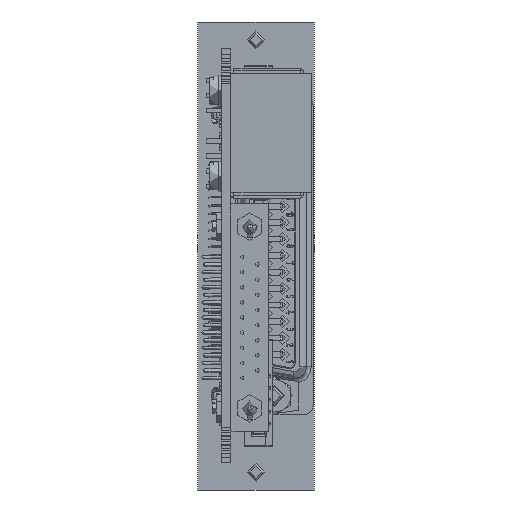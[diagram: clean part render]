
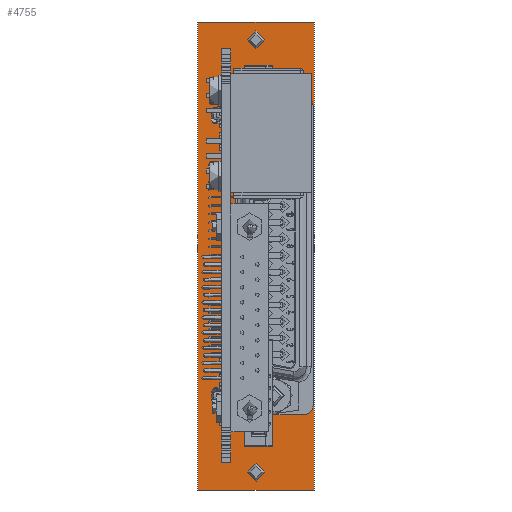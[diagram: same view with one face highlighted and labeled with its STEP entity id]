
A CAD part, front view. The second image highlights one B-rep face of the part: STEP entity #4755.
In plain terms, the highlighted planar face has unit normal (0, -1, 0).
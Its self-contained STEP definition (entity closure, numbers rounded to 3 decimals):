
#4755=ADVANCED_FACE('',(#49452,#49454,#49456,#49458),#49460,.F.);
#49452=FACE_BOUND('',#49453,.T.);
#49453=EDGE_LOOP('',(#87372,#87373,#87374,#87375));
#49454=FACE_BOUND('',#49455,.T.);
#49455=EDGE_LOOP('',(#87376,#87377,#87378,#87379,#87380,#87381,#87382,#87383));
#49456=FACE_BOUND('',#49457,.T.);
#49457=EDGE_LOOP('',(#87384));
#49458=FACE_BOUND('',#49459,.T.);
#49459=EDGE_LOOP('',(#87385));
#49460=PLANE('',#49461);
#49461=AXIS2_PLACEMENT_3D('',#49462,#49463,#49464);
#49462=CARTESIAN_POINT('',(0.,0.,0.));
#49463=DIRECTION('',(0.,1.,0.));
#49464=DIRECTION('',(-1.,0.,0.));
#87372=ORIENTED_EDGE('',*,*,#112655,.F.);
#87373=ORIENTED_EDGE('',*,*,#112663,.F.);
#87374=ORIENTED_EDGE('',*,*,#112660,.F.);
#87375=ORIENTED_EDGE('',*,*,#112658,.F.);
#87376=ORIENTED_EDGE('',*,*,#113678,.F.);
#87377=ORIENTED_EDGE('',*,*,#113679,.F.);
#87378=ORIENTED_EDGE('',*,*,#113680,.F.);
#87379=ORIENTED_EDGE('',*,*,#113681,.F.);
#87380=ORIENTED_EDGE('',*,*,#113682,.F.);
#87381=ORIENTED_EDGE('',*,*,#113683,.F.);
#87382=ORIENTED_EDGE('',*,*,#113684,.F.);
#87383=ORIENTED_EDGE('',*,*,#113685,.F.);
#87384=ORIENTED_EDGE('',*,*,#113686,.T.);
#87385=ORIENTED_EDGE('',*,*,#113687,.T.);
#112655=EDGE_CURVE('',#126127,#126128,#126129,.T.);
#112658=EDGE_CURVE('',#126128,#126132,#126133,.T.);
#112660=EDGE_CURVE('',#126132,#126135,#126136,.T.);
#112663=EDGE_CURVE('',#126135,#126127,#126140,.T.);
#113678=EDGE_CURVE('',#127704,#127705,#127706,.F.);
#113679=EDGE_CURVE('',#127707,#127704,#127708,.T.);
#113680=EDGE_CURVE('',#127709,#127707,#127710,.T.);
#113681=EDGE_CURVE('',#127711,#127709,#127712,.T.);
#113682=EDGE_CURVE('',#127713,#127711,#127714,.F.);
#113683=EDGE_CURVE('',#127715,#127713,#127716,.T.);
#113684=EDGE_CURVE('',#127717,#127715,#127718,.T.);
#113685=EDGE_CURVE('',#127705,#127717,#127719,.T.);
#113686=EDGE_CURVE('',#127720,#127720,#127721,.F.);
#113687=EDGE_CURVE('',#127722,#127722,#127723,.F.);
#126127=VERTEX_POINT('',#149448);
#126128=VERTEX_POINT('',#149449);
#126129=LINE('',#149450,#149451);
#126132=VERTEX_POINT('',#149459);
#126133=LINE('',#149460,#149461);
#126135=VERTEX_POINT('',#149466);
#126136=LINE('',#149467,#149468);
#126140=LINE('',#149478,#149479);
#127704=VERTEX_POINT('',#153450);
#127705=VERTEX_POINT('',#153451);
#127706=CIRCLE('',#153452,1.5);
#127707=VERTEX_POINT('',#153456);
#127708=LINE('',#153457,#153458);
#127709=VERTEX_POINT('',#153460);
#127710=CIRCLE('',#153461,1.5);
#127711=VERTEX_POINT('',#153465);
#127712=LINE('',#153466,#153467);
#127713=VERTEX_POINT('',#153469);
#127714=CIRCLE('',#153470,1.5);
#127715=VERTEX_POINT('',#153474);
#127716=LINE('',#153475,#153476);
#127717=VERTEX_POINT('',#153478);
#127718=CIRCLE('',#153479,1.5);
#127719=LINE('',#153483,#153484);
#127720=VERTEX_POINT('',#153486);
#127721=CIRCLE('',#153487,1.229);
#127722=VERTEX_POINT('',#153491);
#127723=CIRCLE('',#153492,1.229);
#149448=CARTESIAN_POINT('',(0.,0.,0.));
#149449=CARTESIAN_POINT('',(-19.6,0.,0.));
#149450=CARTESIAN_POINT('',(0.,0.,0.));
#149451=VECTOR('',#149452,1.);
#149452=DIRECTION('',(-1.,0.,0.));
#149459=CARTESIAN_POINT('',(-19.6,0.,78.5));
#149460=CARTESIAN_POINT('',(-19.6,0.,0.));
#149461=VECTOR('',#149462,1.);
#149462=DIRECTION('',(0.,0.,1.));
#149466=CARTESIAN_POINT('',(0.,0.,78.5));
#149467=CARTESIAN_POINT('',(-19.6,0.,78.5));
#149468=VECTOR('',#149469,1.);
#149469=DIRECTION('',(1.,0.,0.));
#149478=CARTESIAN_POINT('',(0.,0.,78.5));
#149479=VECTOR('',#149480,1.);
#149480=DIRECTION('',(0.,0.,-1.));
#153450=CARTESIAN_POINT('',(-13.165,0.,14.11));
#153451=CARTESIAN_POINT('',(-11.665,0.,12.61));
#153452=AXIS2_PLACEMENT_3D('',#153453,#153454,#153455);
#153453=CARTESIAN_POINT('',(-11.665,0.,14.11));
#153454=DIRECTION('',(0.,1.,0.));
#153455=DIRECTION('',(0.,0.,-1.));
#153456=CARTESIAN_POINT('',(-13.165,0.,64.53));
#153457=CARTESIAN_POINT('',(-13.165,0.,64.53));
#153458=VECTOR('',#153459,1.);
#153459=DIRECTION('',(0.,0.,-1.));
#153460=CARTESIAN_POINT('',(-11.665,0.,66.03));
#153461=AXIS2_PLACEMENT_3D('',#153462,#153463,#153464);
#153462=CARTESIAN_POINT('',(-11.665,0.,64.53));
#153463=DIRECTION('',(0.,-1.,0.));
#153464=DIRECTION('',(0.,0.,1.));
#153465=CARTESIAN_POINT('',(-1.735,0.,66.03));
#153466=CARTESIAN_POINT('',(-1.735,0.,66.03));
#153467=VECTOR('',#153468,1.);
#153468=DIRECTION('',(-1.,0.,0.));
#153469=CARTESIAN_POINT('',(-0.235,0.,64.53));
#153470=AXIS2_PLACEMENT_3D('',#153471,#153472,#153473);
#153471=CARTESIAN_POINT('',(-1.735,0.,64.53));
#153472=DIRECTION('',(0.,1.,0.));
#153473=DIRECTION('',(0.,0.,1.));
#153474=CARTESIAN_POINT('',(-0.235,0.,14.11));
#153475=CARTESIAN_POINT('',(-0.235,0.,14.11));
#153476=VECTOR('',#153477,1.);
#153477=DIRECTION('',(0.,0.,1.));
#153478=CARTESIAN_POINT('',(-1.735,0.,12.61));
#153479=AXIS2_PLACEMENT_3D('',#153480,#153481,#153482);
#153480=CARTESIAN_POINT('',(-1.735,0.,14.11));
#153481=DIRECTION('',(0.,-1.,0.));
#153482=DIRECTION('',(0.,0.,-1.));
#153483=CARTESIAN_POINT('',(-11.665,0.,12.61));
#153484=VECTOR('',#153485,1.);
#153485=DIRECTION('',(1.,0.,0.));
#153486=CARTESIAN_POINT('',(-8.571,0.,3.));
#153487=AXIS2_PLACEMENT_3D('',#153488,#153489,#153490);
#153488=CARTESIAN_POINT('',(-9.8,0.,3.));
#153489=DIRECTION('',(0.,-1.,0.));
#153490=DIRECTION('',(1.,0.,0.));
#153491=CARTESIAN_POINT('',(-8.571,0.,75.5));
#153492=AXIS2_PLACEMENT_3D('',#153493,#153494,#153495);
#153493=CARTESIAN_POINT('',(-9.8,0.,75.5));
#153494=DIRECTION('',(0.,-1.,0.));
#153495=DIRECTION('',(1.,0.,0.));
